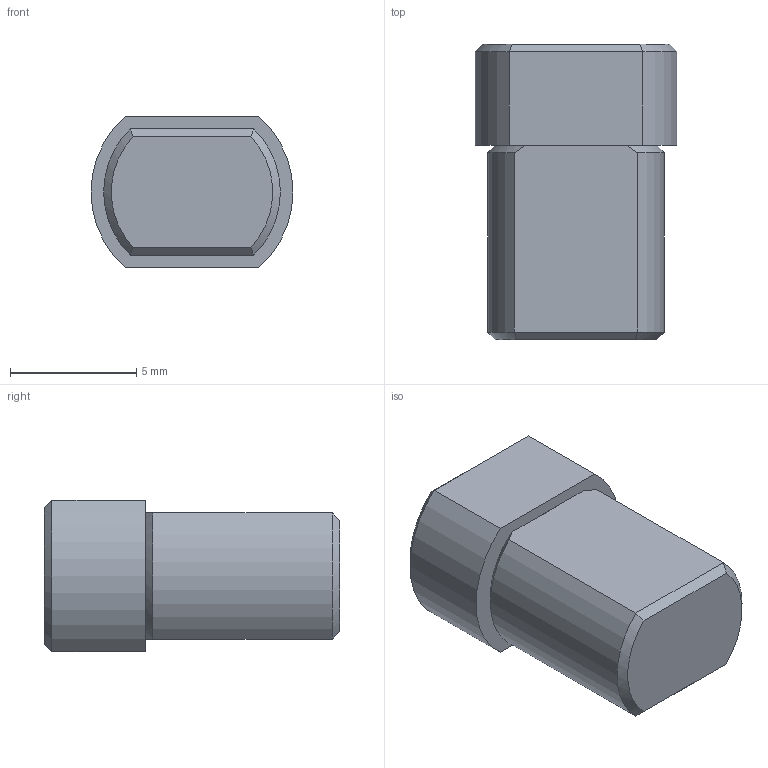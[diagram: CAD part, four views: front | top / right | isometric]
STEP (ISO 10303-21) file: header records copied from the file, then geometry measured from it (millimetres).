
FILE_DESCRIPTION (( 'STEP AP203' ), '1' );
FILE_NAME ('XG11-001-3.STEP', '2025-07-04T06:10:13', ( '微软用户' ), ( '微软中国' ), 'SwSTEP 2.0', 'SolidWorks 2024', '' );
FILE_SCHEMA (( 'CONFIG_CONTROL_DESIGN' ));
Length unit declared in the file: millimetre
Products named in the file (1): XG11-001-3
Bounding box: 8 x 11.7 x 6 mm (x, y, z)
Volume: 414 mm3; surface area: 357.7 mm2
Topology: 1 solids, 1 shells, 25 faces, 54 edges, 32 vertices
Faces by surface type: plane 13, cylinder 6, cone 6
Entity records: 759 total; most frequent: CARTESIAN_POINT 148, DIRECTION 112, ORIENTED_EDGE 108, EDGE_CURVE 54, AXIS2_PLACEMENT_3D 44, VERTEX_POINT 32, EDGE_LOOP 26, ADVANCED_FACE 25
